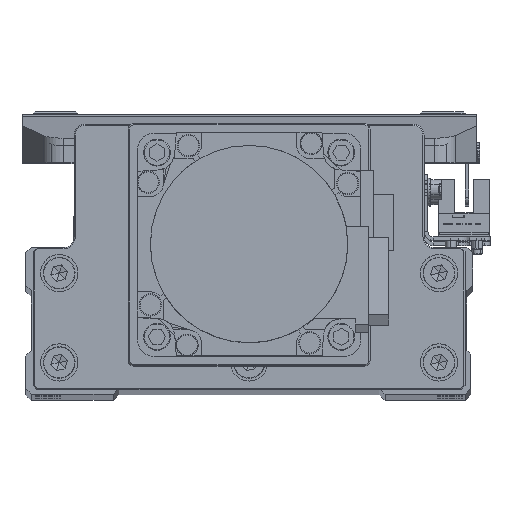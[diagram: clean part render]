
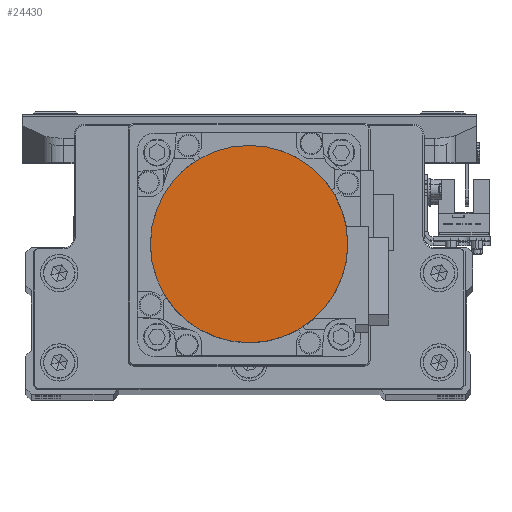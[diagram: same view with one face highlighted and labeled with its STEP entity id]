
A CAD part, top view. The second image highlights one B-rep face of the part: STEP entity #24430.
In plain terms, the highlighted planar face has unit normal (0, 0, 1) as drawn and (0, 0, -1) by its records, which use the part's own axes.
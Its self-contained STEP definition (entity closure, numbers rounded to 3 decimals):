
#389 = CARTESIAN_POINT ( 'NONE',  ( 0., 0., -109.7 ) ) ;
#3968 = EDGE_CURVE ( 'NONE', #17822, #33644, #28422, .T. ) ;
#9171 = AXIS2_PLACEMENT_3D ( 'NONE', #389, #14299, #28196 ) ;
#9183 = CARTESIAN_POINT ( 'NONE',  ( 0., 0., -109.7 ) ) ;
#10073 = DIRECTION ( 'NONE',  ( 1., 0., 0. ) ) ;
#14299 = DIRECTION ( 'NONE',  ( 0., 0., 1. ) ) ;
#17411 = ORIENTED_EDGE ( 'NONE', *, *, #3968, .F. ) ;
#17822 = VERTEX_POINT ( 'NONE', #38663 ) ;
#19013 = CIRCLE ( 'NONE', #44538, 26.5 ) ;
#21106 = FACE_OUTER_BOUND ( 'NONE', #44671, .T. ) ;
#21744 = ORIENTED_EDGE ( 'NONE', *, *, #40017, .F. ) ;
#21851 = CARTESIAN_POINT ( 'NONE',  ( -26.5, 0., -109.7 ) ) ;
#23052 = DIRECTION ( 'NONE',  ( 0., 0., 1. ) ) ;
#24430 = ADVANCED_FACE ( 'NONE', ( #21106 ), #31630, .F. ) ;
#27378 = CARTESIAN_POINT ( 'NONE',  ( 0., 0., -109.7 ) ) ;
#28196 = DIRECTION ( 'NONE',  ( 1., 0., 0. ) ) ;
#28394 = AXIS2_PLACEMENT_3D ( 'NONE', #27378, #41292, #10073 ) ;
#28422 = CIRCLE ( 'NONE', #28394, 26.5 ) ;
#31630 = PLANE ( 'NONE',  #9171 ) ;
#33644 = VERTEX_POINT ( 'NONE', #21851 ) ;
#36984 = DIRECTION ( 'NONE',  ( -1., 0., 0. ) ) ;
#38663 = CARTESIAN_POINT ( 'NONE',  ( 26.5, 0., -109.7 ) ) ;
#40017 = EDGE_CURVE ( 'NONE', #33644, #17822, #19013, .T. ) ;
#41292 = DIRECTION ( 'NONE',  ( 0., 0., 1. ) ) ;
#44538 = AXIS2_PLACEMENT_3D ( 'NONE', #9183, #23052, #36984 ) ;
#44671 = EDGE_LOOP ( 'NONE', ( #21744, #17411 ) ) ;
